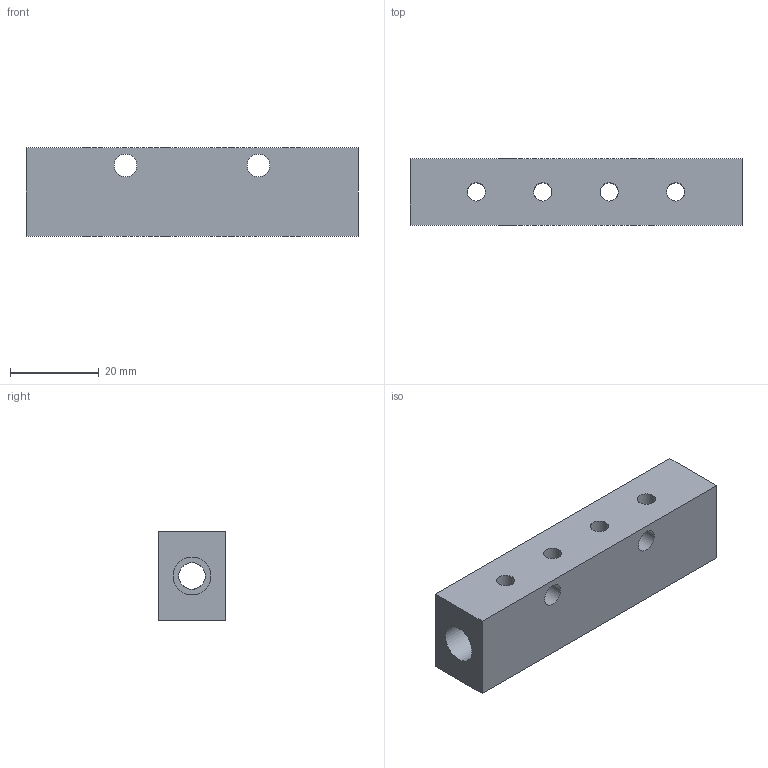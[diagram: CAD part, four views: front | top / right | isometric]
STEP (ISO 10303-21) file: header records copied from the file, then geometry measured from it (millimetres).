
FILE_DESCRIPTION( ( 'Unknown' ), '1' );
FILE_NAME( 'C:/Users/Fabrizio/Desktop/DISEGNI ACCESSORI FP SOLIDEDGE/CA.13.02.003.stp', 'Unknown', ( 'Unknown' ), ( 'Unknown' ), 'PSStep 13.0', 'Unknown', ' ' );
FILE_SCHEMA( ( 'AUTOMOTIVE_DESIGN { 1 0 10303 214 1 1 1 1 }' ) );
Length unit declared in the file: millimetre
Products named in the file (1): 1
Bounding box: 75 x 15 x 20 mm (x, y, z)
Volume: 18407.3 mm3; surface area: 8313.2 mm2
Topology: 1 solids, 1 shells, 21 faces, 62 edges, 41 vertices
Faces by surface type: cylinder 13, plane 8
Full cylindrical faces by diameter (mm): 4.134 x8, 5.1 x2, 6 x1, 8.566 x2
Entity records: 1090 total; most frequent: CARTESIAN_POINT 502, DIRECTION 92, ORIENTED_EDGE 76, EDGE_LOOP 58, AXIS2_PLACEMENT_3D 40, EDGE_CURVE 38, FACE_OUTER_BOUND 34, VERTEX_POINT 34
